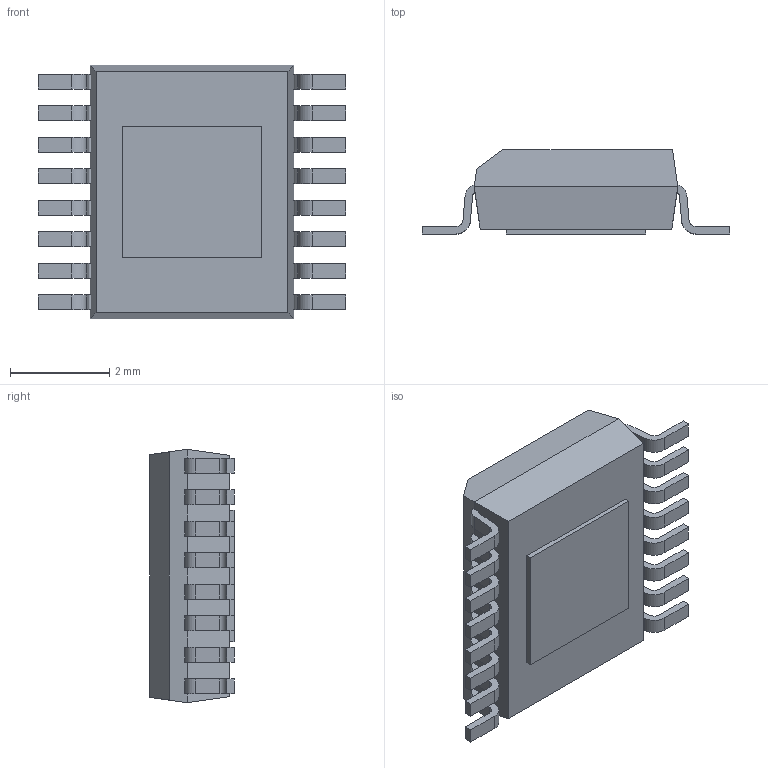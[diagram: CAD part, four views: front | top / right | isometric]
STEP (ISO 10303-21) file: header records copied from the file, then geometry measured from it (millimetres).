
FILE_DESCRIPTION (( 'STEP AP214' ), '1' );
FILE_NAME ('SOP63P600X170-16TP1_MO-137.BB.STEP', '2014-10-28T13:23:11', ( 'Tester2' ), ( '' ), 'SwSTEP 2.0', 'SolidWorks 2012', '' );
FILE_SCHEMA (( 'AUTOMOTIVE_DESIGN' ));
Length unit declared in the file: millimetre
Products named in the file (1): SOP63P600X170-16TP1_MO-137.BB
Bounding box: 6.2 x 1.7 x 5.1 mm (x, y, z)
Volume: 33.3 mm3; surface area: 91.1 mm2
Topology: 1 solids, 1 shells, 195 faces, 569 edges, 378 vertices
Faces by surface type: plane 129, cylinder 66
Entity records: 8501 total; most frequent: CARTESIAN_POINT 1143, ORIENTED_EDGE 1138, DIRECTION 1093, EDGE_CURVE 569, VECTOR 437, LINE 437, VERTEX_POINT 378, AXIS2_PLACEMENT_3D 328
